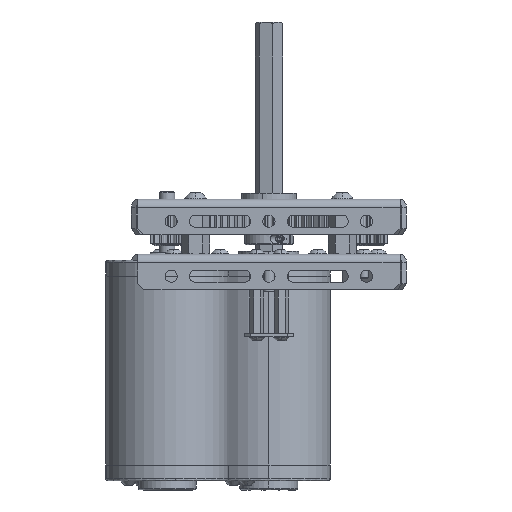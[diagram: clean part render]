
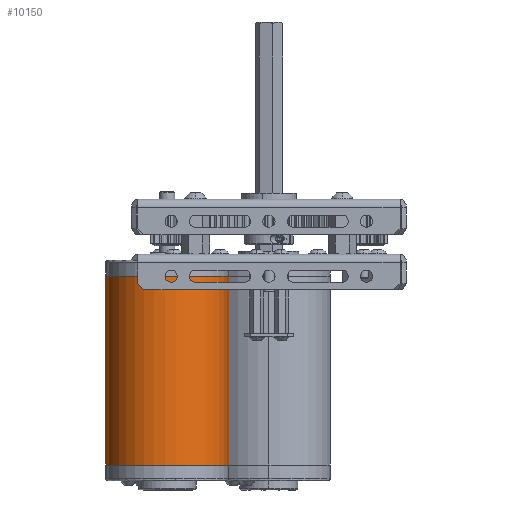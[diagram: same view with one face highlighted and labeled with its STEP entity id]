
A CAD part, front view. The second image highlights one B-rep face of the part: STEP entity #10150.
In plain terms, the highlighted cylindrical face has radius 32.004 mm (diameter 64.008 mm), a partial arc.
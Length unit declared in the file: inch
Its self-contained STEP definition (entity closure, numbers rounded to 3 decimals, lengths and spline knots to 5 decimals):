
#2503 = CARTESIAN_POINT ( 'NONE',  ( 1.4, 5.563, 0.75 ) ) ;
#2509 = DIRECTION ( 'NONE',  ( 0., 0., 1. ) ) ;
#2514 = CARTESIAN_POINT ( 'NONE',  ( 1.4, 3.043, 0.75 ) ) ;
#2515 = DIRECTION ( 'NONE',  ( 0., 0., 1. ) ) ;
#5559 = EDGE_CURVE ( 'NONE', #9555, #9538, #24712, .T. ) ;
#5561 = EDGE_CURVE ( 'NONE', #9565, #9562, #24713, .T. ) ;
#5997 = EDGE_CURVE ( 'NONE', #9538, #9565, #25273, .T. ) ;
#5999 = EDGE_CURVE ( 'NONE', #9555, #9562, #25270, .T. ) ;
#9538 = VERTEX_POINT ( 'NONE', #47578 ) ;
#9555 = VERTEX_POINT ( 'NONE', #47601 ) ;
#9562 = VERTEX_POINT ( 'NONE', #47611 ) ;
#9565 = VERTEX_POINT ( 'NONE', #47615 ) ;
#10150 = ADVANCED_FACE ( 'NONE', ( #36382 ), #36383, .T. ) ;
#14275 = DIRECTION ( 'NONE',  ( 0., -1., 0. ) ) ;
#14276 = DIRECTION ( 'NONE',  ( 0., 0., -1. ) ) ;
#14277 = CARTESIAN_POINT ( 'NONE',  ( 1.4, 4.303, 0.426 ) ) ;
#14280 = DIRECTION ( 'NONE',  ( 0., -1., 0. ) ) ;
#14281 = DIRECTION ( 'NONE',  ( 0., 0., 1. ) ) ;
#14282 = CARTESIAN_POINT ( 'NONE',  ( 1.4, 4.303, -3.438 ) ) ;
#20927 = AXIS2_PLACEMENT_3D ( 'NONE', #14282, #14281, #14280 ) ;
#20930 = AXIS2_PLACEMENT_3D ( 'NONE', #14277, #14276, #14275 ) ;
#22595 = AXIS2_PLACEMENT_3D ( 'NONE', #49472, #49475, #49477 ) ;
#23346 = ORIENTED_EDGE ( 'NONE', *, *, #5999, .F. ) ;
#23347 = ORIENTED_EDGE ( 'NONE', *, *, #5559, .T. ) ;
#23348 = ORIENTED_EDGE ( 'NONE', *, *, #5997, .T. ) ;
#23349 = ORIENTED_EDGE ( 'NONE', *, *, #5561, .T. ) ;
#24712 = CIRCLE ( 'NONE', #20927, 1.26 ) ;
#24713 = CIRCLE ( 'NONE', #20930, 1.26 ) ;
#25270 = LINE ( 'NONE', #2503, #25278 ) ;
#25273 = LINE ( 'NONE', #2514, #25275 ) ;
#25275 = VECTOR ( 'NONE', #2515, 39.37008 ) ;
#25278 = VECTOR ( 'NONE', #2509, 39.37008 ) ;
#36382 = FACE_OUTER_BOUND ( 'NONE', #52863, .T. ) ;
#36383 = CYLINDRICAL_SURFACE ( 'NONE', #22595, 1.26 ) ;
#47578 = CARTESIAN_POINT ( 'NONE',  ( 1.4, 3.043, -3.438 ) ) ;
#47601 = CARTESIAN_POINT ( 'NONE',  ( 1.4, 5.563, -3.438 ) ) ;
#47611 = CARTESIAN_POINT ( 'NONE',  ( 1.4, 5.563, 0.426 ) ) ;
#47615 = CARTESIAN_POINT ( 'NONE',  ( 1.4, 3.043, 0.426 ) ) ;
#49472 = CARTESIAN_POINT ( 'NONE',  ( 1.4, 4.303, 0.75 ) ) ;
#49475 = DIRECTION ( 'NONE',  ( 0., 0., 1. ) ) ;
#49477 = DIRECTION ( 'NONE',  ( 0., -1., 0. ) ) ;
#52863 = EDGE_LOOP ( 'NONE', ( #23346, #23347, #23348, #23349 ) ) ;
